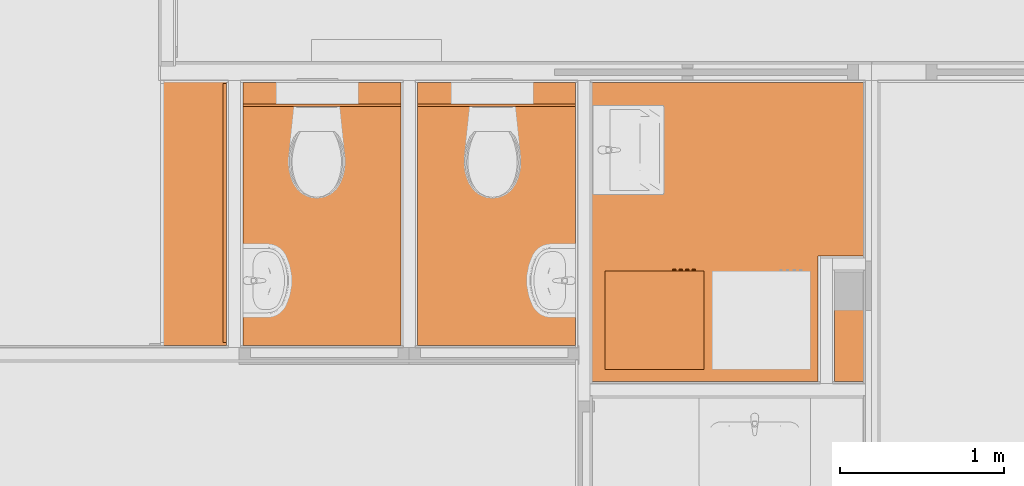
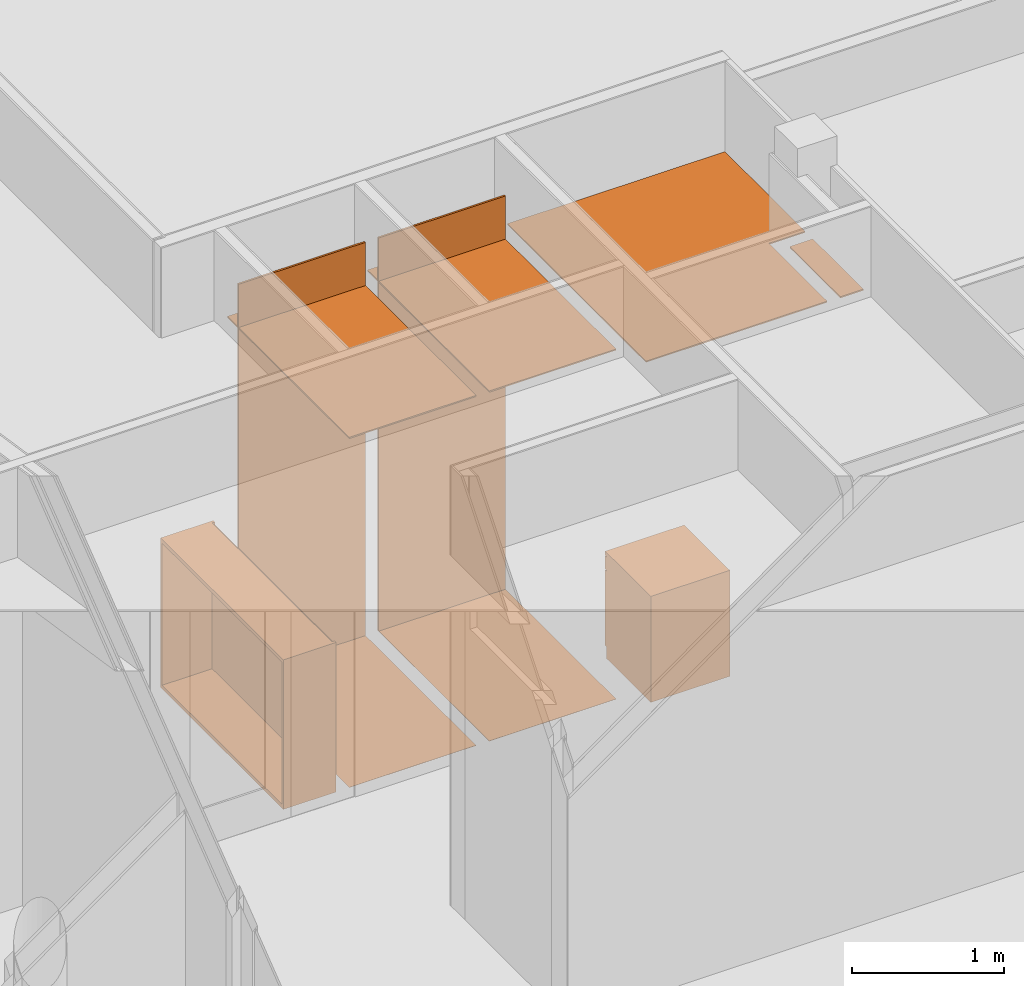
# One storey, part 153 of 167: 8 proxies.
"""IFC2X3 building model written with IfcOpenShell, lengths in millimetres."""

from ifc_helpers import new_model, entity, si_unit, converted_unit, derived_unit, money_unit, direction, frame, origin_with_axes, place, context, subcontext, project, spatial, open_shell, faceted_brep, surface_model, material, type_object, element, save


model = new_model("IFC2X3")

# Units and contexts
model_context = context("Model", 3, precision=0.01, world=origin_with_axes(), true_north=direction((0.0, 1.0)))
plan_context = context("Plan", 3, precision=0.01, world=origin_with_axes(), true_north=direction((0.0, 1.0)))
body_context = subcontext(model_context, "Body", "Model", "MODEL_VIEW")
ifc_project = project(units=[si_unit("LENGTHUNIT", "METRE", prefix="MILLI"), si_unit("AREAUNIT", "SQUARE_METRE"), si_unit("VOLUMEUNIT", "CUBIC_METRE"), converted_unit("PLANEANGLEUNIT", "DEGREE", entity("IfcPlaneAngleMeasure", 0.0174532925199), si_unit("PLANEANGLEUNIT", "RADIAN"), dimensions=[0, 0, 0, 0, 0, 0, 0]), si_unit("SOLIDANGLEUNIT", "STERADIAN"), money_unit("EUR"), converted_unit("TIMEUNIT", "Year", entity("IfcTimeMeasure", 31556926.0), si_unit("TIMEUNIT", "SECOND"), dimensions=[0, 0, 1, 0, 0, 0, 0]), si_unit("MASSUNIT", "GRAM", prefix="KILO"), si_unit("THERMODYNAMICTEMPERATUREUNIT", "DEGREE_CELSIUS"), si_unit("LUMINOUSINTENSITYUNIT", "LUMEN"), si_unit("ENERGYUNIT", "JOULE", prefix="MEGA"), derived_unit("THERMALCONDUCTANCEUNIT", [(si_unit("POWERUNIT", "WATT"), 1), (si_unit("LENGTHUNIT", "METRE"), -1), (si_unit("THERMODYNAMICTEMPERATUREUNIT", "KELVIN"), -1)]), derived_unit("SPECIFICHEATCAPACITYUNIT", [(si_unit("ENERGYUNIT", "JOULE"), 1), (si_unit("MASSUNIT", "GRAM", prefix="KILO"), -1), (si_unit("THERMODYNAMICTEMPERATUREUNIT", "KELVIN"), -1)]), derived_unit("MASSDENSITYUNIT", [(si_unit("MASSUNIT", "GRAM", prefix="KILO"), 1), (si_unit("VOLUMEUNIT", "CUBIC_METRE"), -1)])], contexts=[model_context, plan_context])

# Site, building, storey
site_placement = place(None, origin_with_axes())
site = spatial("IfcSite", under=ifc_project, at=site_placement, Name="Site", CompositionType="ELEMENT")
building_placement = place(site_placement, origin_with_axes())
building = spatial("IfcBuilding", under=site, at=building_placement, Name="Naam gebouw", CompositionType="ELEMENT")
storey_placement = place(building_placement, origin_with_axes())
storey = spatial("IfcBuildingStorey", under=building, at=storey_placement, Name="Begane grond", CompositionType="ELEMENT", Elevation=0.0)

# Proxies
ifc_material_1 = material(Name="ALG - BINNENAFWERKING")
building_element_proxy_type_1 = type_object("IfcBuildingElementProxyType", Name="ALG - BINNENAFWERKING 10", PredefinedType="NOTDEFINED")
proxy_1_placement = place(storey_placement, frame((24975.0000167, 35636.3531424, 2800.0), z_axis=(0.0, 0.0, 1.0), x_axis=(1.0, 0.0, 0.0)))
element("IfcBuildingElementProxy", 1, at=proxy_1_placement, inside=storey, type_object=building_element_proxy_type_1, material=ifc_material_1, Name="23__Vloer-x", context=body_context, shape_type="Brep", body=[
    faceted_brep([(962.499996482, 0.0, 0.0), (962.499996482, 1453.64636594, 0.0), (962.499996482, 1453.64636594, 10.0), (962.499996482, 0.0, 10.0), (0.0, 0.0, 0.0), (0.0, 1453.64636594, 0.0), (0.0, 1453.64636594, 10.0), (0.0, 0.0, 10.0)], [[[0, 1, 2, 3]], [[4, 5, 1, 0]], [[5, 6, 2, 1]], [[3, 2, 6, 7]], [[4, 0, 3, 7]], [[7, 6, 5, 4]]]),
    faceted_brep([(2024.99999648, 0.0, 0.0), (2024.99999648, 1453.64636594, 0.0), (2024.99999648, 1453.64636594, 10.0), (2024.99999648, 0.0, 10.0), (1062.49999648, 0.0, 0.0), (1062.49999648, 1453.64636594, 0.0), (1062.49999648, 1453.64636594, 10.0), (1062.49999648, 0.0, 10.0)], [[[0, 1, 2, 3]], [[4, 5, 1, 0]], [[5, 6, 2, 1]], [[3, 2, 6, 7]], [[3, 7, 4, 0]], [[7, 6, 5, 4]]]),
    faceted_brep([(0.0, 1601.14685758, 10.0), (0.0, 1468.64636594, 10.0), (962.499996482, 1468.64636594, 10.0), (962.499996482, 1601.14685758, 10.0), (0.0, 1601.14685758, 0.0), (0.0, 1468.64636594, 0.0), (962.499996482, 1468.64636594, 0.0), (962.499996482, 1601.14685758, 0.0)], [[[0, 1, 2, 3]], [[4, 5, 1, 0]], [[5, 6, 2, 1]], [[3, 2, 6, 7]], [[0, 3, 7, 4]], [[7, 6, 5, 4]]]),
    faceted_brep([(1062.49999648, 1601.14685758, 10.0), (1062.49999648, 1468.64636594, 10.0), (2024.99999648, 1468.64636594, 10.0), (2024.99999648, 1601.14685758, 10.0), (1062.49999648, 1601.14685758, 0.0), (1062.49999648, 1468.64636594, 0.0), (2024.99999648, 1468.64636594, 0.0), (2024.99999648, 1601.14685758, 0.0)], [[[0, 1, 2, 3]], [[4, 5, 1, 0]], [[5, 6, 2, 1]], [[3, 2, 6, 7]], [[7, 4, 0, 3]], [[7, 6, 5, 4]]]),
])
proxy_2_placement = place(storey_placement, frame((27100.0000132, 35417.4000002, 2800.0), z_axis=(0.0, 0.0, 1.0), x_axis=(1.0, 0.0, 0.0)))
element("IfcBuildingElementProxy", 2, at=proxy_2_placement, inside=storey, type_object=building_element_proxy_type_1, material=ifc_material_1, Name="23__Vloer-x", context=body_context, shape_type="Brep", body=[
    faceted_brep([(1649.99998678, 0.0, 0.0), (1649.99998678, 665.09999984, 0.0), (1649.99998678, 665.09999984, 10.0), (1649.99998678, 0.0, 10.0), (1474.99998678, 0.0, 0.0), (1474.99998678, 665.09999984, 0.0), (1474.99998678, 665.09999984, 10.0), (1474.99998678, 0.0, 10.0)], [[[0, 1, 2, 3]], [[4, 5, 1, 0]], [[5, 6, 2, 1]], [[3, 2, 6, 7]], [[3, 7, 4, 0]], [[7, 6, 5, 4]]]),
    faceted_brep([(1374.99998678, 765.09999984, 10.0), (1387.49998678, 765.09999984, 10.0), (1649.99998678, 765.09999984, 10.0), (1649.99998678, 1820.09999984, 10.0), (0.0, 1820.09999984, 10.0), (0.0, 0.0, 10.0), (1374.99998678, 0.0, 10.0), (1374.99998678, 765.09999984, 0.0), (1387.49998678, 765.09999984, 0.0), (1649.99998678, 765.09999984, 0.0), (1649.99998678, 1820.09999984, 0.0), (0.0, 1820.09999984, 0.0), (0.0, 0.0, 0.0), (1374.99998678, 0.0, 0.0)], [[[0, 1, 2, 3, 4, 5, 6]], [[7, 8, 1, 0]], [[8, 9, 2, 1]], [[3, 2, 9, 10]], [[11, 4, 3, 10]], [[5, 4, 11, 12]], [[12, 13, 6, 5]], [[7, 0, 6, 13]], [[10, 9, 8, 7, 13, 12, 11]]]),
])
ifc_material_2 = material(Name="_TenW_43_Flexx F15")
building_element_proxy_type_2 = type_object("IfcBuildingElementProxyType", Name="_TenW_43_Flexx F15 2", PredefinedType="NOTDEFINED")
proxy_3_placement = place(storey_placement, frame((24974.9999644, 37089.9995131, 0.0), z_axis=(0.0, 0.0, 1.0), x_axis=(1.0, 0.0, 0.0)))
element("IfcBuildingElementProxy", 3, at=proxy_3_placement, inside=storey, type_object=building_element_proxy_type_2, material=ifc_material_2, Name="23__Vloer-x", context=body_context, shape_type="Brep", body=[
    faceted_brep([(0.0, 0.0, 2.0), (0.0, 0.0, 0.0), (0.0, -1453.64631953, 0.0), (0.0, -1453.64631953, 2.0), (962.500050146, 0.0, 2.0), (962.500050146, 0.0, 0.0), (962.500050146, -1453.64634971, 0.0), (962.500050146, -1453.64634971, 2.0)], [[[0, 1, 2, 3]], [[4, 5, 1, 0]], [[2, 1, 5, 6]], [[3, 2, 6, 7]], [[4, 0, 3, 7]], [[7, 6, 5, 4]]]),
])
proxy_4_placement = place(storey_placement, frame((26037.500021, 37089.9995131, 0.0), z_axis=(0.0, 0.0, 1.0), x_axis=(1.0, 0.0, 0.0)))
element("IfcBuildingElementProxy", 4, at=proxy_4_placement, inside=storey, type_object=building_element_proxy_type_2, material=ifc_material_2, Name="23__Vloer-x", context=body_context, shape_type="Brep", body=[
    faceted_brep([(0.0, 0.0, 2.0), (0.0, 0.0, 0.0), (0.0, -1453.64634971, 0.0), (0.0, -1453.64634971, 2.0), (962.499959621, 0.0, 2.0), (962.499959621, 0.0, 0.0), (962.499959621, -1453.64631953, 0.0), (962.499959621, -1453.64631953, 2.0)], [[[0, 1, 2, 3]], [[4, 5, 1, 0]], [[2, 1, 5, 6]], [[3, 2, 6, 7]], [[4, 0, 3, 7]], [[7, 6, 5, 4]]]),
])
building_element_proxy_type_3 = type_object("IfcBuildingElementProxyType", Name="Boekenplank 01 24", PredefinedType="NOTDEFINED")
proxy_5_placement = place(storey_placement, frame((24475.0000525, 35636.3531404, 0.0), z_axis=(0.0, 0.0, 1.0), x_axis=(0.0, -1.0, 0.0)))
element("IfcBuildingElementProxy", 5, at=proxy_5_placement, inside=storey, type_object=building_element_proxy_type_3, Name="__Object-x", context=body_context, shape_type="Brep", body=[
    faceted_brep([(-1593.6468596, 399.99996122, 20.0), (-1593.6468596, 379.99996122, 20.0), (-1593.6468596, 379.99996122, 1180.0), (-1593.6468596, 399.99996122, 1180.0), (-20.0, 399.99996122, 20.0), (-20.0, 379.99996122, 20.0), (-20.0, 379.99996122, 1180.0), (-20.0, 399.99996122, 1180.0)], [[[0, 1, 2, 3]], [[0, 4, 5, 1]], [[1, 5, 6, 2]], [[3, 2, 6, 7]], [[4, 0, 3, 7]], [[5, 4, 7, 6]]]),
    faceted_brep([(-1593.6468596, 379.99996122, 0.0), (-1593.6468596, 0.0, 0.0), (-1593.6468596, 0.0, 30.0), (-1593.6468596, 379.99996122, 30.0), (-20.0, 379.99996122, 0.0), (-20.0, 0.0, 0.0), (-20.0, 0.0, 30.0), (-20.0, 379.99996122, 30.0)], [[[0, 1, 2, 3]], [[0, 4, 5, 1]], [[1, 5, 6, 2]], [[3, 2, 6, 7]], [[4, 0, 3, 7]], [[5, 4, 7, 6]]]),
    faceted_brep([(-1593.6468596, 379.99996122, 1170.0), (-1593.6468596, 0.0, 1170.0), (-1593.6468596, 0.0, 1200.0), (-1593.6468596, 379.99996122, 1200.0), (-20.0, 379.99996122, 1170.0), (-20.0, 0.0, 1170.0), (-20.0, 0.0, 1200.0), (-20.0, 379.99996122, 1200.0)], [[[0, 1, 2, 3]], [[0, 4, 5, 1]], [[1, 5, 6, 2]], [[3, 2, 6, 7]], [[4, 0, 3, 7]], [[5, 4, 7, 6]]]),
    faceted_brep([(-20.0, 0.0, 0.0), (0.0, 0.0, 0.0), (0.0, 0.0, 1200.0), (-20.0, 0.0, 1200.0), (-20.0, 399.99996122, 0.0), (0.0, 399.99996122, 0.0), (0.0, 399.99996122, 1200.0), (-20.0, 399.99996122, 1200.0)], [[[0, 1, 2, 3]], [[0, 4, 5, 1]], [[1, 5, 6, 2]], [[3, 2, 6, 7]], [[4, 0, 3, 7]], [[5, 4, 7, 6]]]),
    faceted_brep([(-1593.6468596, 399.99996122, 0.0), (-1613.6468596, 399.99996122, 0.0), (-1613.6468596, 399.99996122, 1200.0), (-1593.6468596, 399.99996122, 1200.0), (-1593.6468596, 0.0, 0.0), (-1613.6468596, 0.0, 0.0), (-1613.6468596, 0.0, 1200.0), (-1593.6468596, 0.0, 1200.0)], [[[0, 1, 2, 3]], [[0, 4, 5, 1]], [[1, 5, 6, 2]], [[3, 2, 6, 7]], [[4, 0, 3, 7]], [[5, 4, 7, 6]]]),
])
ifc_material_3 = material(Name="_TenW_22_Gipsplaat watervast")
building_element_proxy_type_4 = type_object("IfcBuildingElementProxyType", Name="_TenW_22_Gipsvezelplaat watervast 15", PredefinedType="NOTDEFINED")
proxy_6_placement = place(storey_placement, frame((25987.5000132, 37089.9995084, 0.0), z_axis=(0.0, 0.0, 1.0), x_axis=(-1.0, 0.0, 0.0)))
element("IfcBuildingElementProxy", 6, at=proxy_6_placement, inside=storey, type_object=building_element_proxy_type_4, material=ifc_material_3, Name="22__Wand-x", context=body_context, shape_type="Brep", body=[
    faceted_brep([(1012.49999648, 0.0, 3155.88619717), (50.0, 0.0, 3155.88619717), (50.0, -15.0, 3155.88619717), (1012.49999648, -15.0, 3155.88619717), (1012.49999648, 0.0, 0.0), (50.0, 0.0, 0.0), (50.0, -15.0, 0.0), (1012.49999648, -15.0, 0.0)], [[[0, 1, 2, 3]], [[4, 5, 1, 0]], [[5, 6, 2, 1]], [[3, 2, 6, 7]], [[0, 3, 7, 4]], [[7, 6, 5, 4]]]),
])
proxy_7_placement = place(storey_placement, frame((27050.0000097, 37089.9995084, 0.0), z_axis=(0.0, 0.0, 1.0), x_axis=(-1.0, 0.0, 0.0)))
element("IfcBuildingElementProxy", 7, at=proxy_7_placement, inside=storey, type_object=building_element_proxy_type_4, material=ifc_material_3, Name="22__Wand-x", context=body_context, shape_type="Brep", body=[
    faceted_brep([(1012.49999648, 0.0, 0.0), (1012.49999648, -15.0, 0.0), (49.9999964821, -15.0, 0.0), (49.9999964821, 0.0, 0.0), (1012.49999648, 0.0, 3155.88619717), (1012.49999648, -15.0, 3155.88619717), (49.9999964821, -15.0, 3155.88619717), (49.9999964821, 0.0, 3155.88619717)], [[[0, 1, 2, 3]], [[1, 0, 4, 5]], [[1, 5, 6, 2]], [[7, 3, 2, 6]], [[4, 0, 3, 7]], [[5, 4, 7, 6]]]),
])
building_element_proxy_type_5 = type_object("IfcBuildingElementProxyType", Name="Wasmachine 24", PredefinedType="NOTDEFINED")
proxy_8_placement = place(storey_placement, frame((27478.7955453, 35490.9955132, 0.0), z_axis=(0.0, 0.0, 1.0), x_axis=(-1.0, 0.0, 0.0)))
element("IfcBuildingElementProxy", 8, at=proxy_8_placement, inside=storey, type_object=building_element_proxy_type_5, Name="__object-x", context=body_context, shape_type="SurfaceModel", body=[
    faceted_brep([(-300.0, -580.0, 94.4444444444), (300.0, -580.0, 94.4444444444), (300.0, -600.0, 94.4444444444), (-300.0, -600.0, 94.4444444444), (-300.0, -580.0, 698.888888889), (300.0, -580.0, 698.888888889), (170.0, -580.0, 396.666666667), (147.224318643, -580.0, 481.666666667), (85.0, -580.0, 543.89098531), (0.0, -580.0, 566.666666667), (-85.0, -580.0, 543.89098531), (-147.224318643, -580.0, 481.666666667), (-170.0, -580.0, 396.666666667), (-147.224318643, -580.0, 311.666666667), (-85.0, -580.0, 249.442348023), (0.0, -580.0, 226.666666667), (85.0, -580.0, 249.442348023), (147.224318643, -580.0, 311.666666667), (300.0, -600.0, 698.888888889), (-300.0, -600.0, 698.888888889), (170.0, -600.0, 396.666666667), (147.224318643, -600.0, 311.666666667), (85.0, -600.0, 249.442348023), (0.0, -600.0, 226.666666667), (-85.0, -600.0, 249.442348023), (-147.224318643, -600.0, 311.666666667), (-170.0, -600.0, 396.666666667), (-147.224318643, -600.0, 481.666666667), (-85.0, -600.0, 543.89098531), (0.0, -600.0, 566.666666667), (85.0, -600.0, 543.89098531), (147.224318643, -600.0, 481.666666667)], [[[0, 1, 2, 3]], [[0, 4, 5, 1], [6, 7, 8, 9, 10, 11, 12, 13, 14, 15, 16, 17]], [[1, 5, 18, 2]], [[3, 2, 18, 19], [20, 21, 22, 23, 24, 25, 26, 27, 28, 29, 30, 31]], [[4, 0, 3, 19]], [[5, 4, 19, 18]], [[7, 6, 20, 31]], [[8, 7, 31, 30]], [[9, 8, 30, 29]], [[10, 9, 29, 28]], [[11, 10, 28, 27]], [[12, 11, 27, 26]], [[13, 12, 26, 25]], [[14, 13, 25, 24]], [[15, 14, 24, 23]], [[16, 15, 23, 22]], [[17, 16, 22, 21]], [[6, 17, 21, 20]]]),
    faceted_brep([(170.0, -560.0, 396.666666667), (147.224318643, -560.0, 481.666666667), (147.224318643, -580.0, 481.666666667), (170.0, -580.0, 396.666666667), (147.224318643, -560.0, 311.666666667), (85.0, -560.0, 249.442348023), (0.0, -560.0, 226.666666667), (-85.0, -560.0, 249.442348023), (-147.224318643, -560.0, 311.666666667), (-170.0, -560.0, 396.666666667), (-147.224318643, -560.0, 481.666666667), (-85.0, -560.0, 543.89098531), (0.0, -560.0, 566.666666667), (85.0, -560.0, 543.89098531), (136.0, -560.0, 396.666666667), (117.779454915, -560.0, 464.666666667), (68.0, -560.0, 514.446121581), (0.0, -560.0, 532.666666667), (-68.0, -560.0, 514.446121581), (-117.779454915, -560.0, 464.666666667), (-136.0, -560.0, 396.666666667), (-117.779454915, -560.0, 328.666666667), (-68.0, -560.0, 278.887211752), (0.0, -560.0, 260.666666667), (68.0, -560.0, 278.887211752), (117.779454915, -560.0, 328.666666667), (85.0, -580.0, 543.89098531), (0.0, -580.0, 566.666666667), (-85.0, -580.0, 543.89098531), (-147.224318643, -580.0, 481.666666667), (-170.0, -580.0, 396.666666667), (-147.224318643, -580.0, 311.666666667), (-85.0, -580.0, 249.442348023), (0.0, -580.0, 226.666666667), (85.0, -580.0, 249.442348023), (147.224318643, -580.0, 311.666666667), (136.0, -580.0, 396.666666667), (117.779454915, -580.0, 328.666666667), (68.0, -580.0, 278.887211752), (0.0, -580.0, 260.666666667), (-68.0, -580.0, 278.887211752), (-117.779454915, -580.0, 328.666666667), (-136.0, -580.0, 396.666666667), (-117.779454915, -580.0, 464.666666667), (-68.0, -580.0, 514.446121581), (0.0, -580.0, 532.666666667), (68.0, -580.0, 514.446121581), (117.779454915, -580.0, 464.666666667)], [[[0, 1, 2, 3]], [[0, 4, 5, 6, 7, 8, 9, 10, 11, 12, 13, 1], [14, 15, 16, 17, 18, 19, 20, 21, 22, 23, 24, 25]], [[1, 13, 26, 2]], [[3, 2, 26, 27, 28, 29, 30, 31, 32, 33, 34, 35], [36, 37, 38, 39, 40, 41, 42, 43, 44, 45, 46, 47]], [[4, 0, 3, 35]], [[5, 4, 35, 34]], [[6, 5, 34, 33]], [[7, 6, 33, 32]], [[8, 7, 32, 31]], [[9, 8, 31, 30]], [[10, 9, 30, 29]], [[11, 10, 29, 28]], [[12, 11, 28, 27]], [[13, 12, 27, 26]], [[15, 14, 36, 47]], [[16, 15, 47, 46]], [[17, 16, 46, 45]], [[18, 17, 45, 44]], [[19, 18, 44, 43]], [[20, 19, 43, 42]], [[21, 20, 42, 41]], [[22, 21, 41, 40]], [[23, 22, 40, 39]], [[24, 23, 39, 38]], [[25, 24, 38, 37]], [[14, 25, 37, 36]]]),
    surface_model("IfcShellBasedSurfaceModel", [(-68.0, -560.0, 514.446121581), (0.0, -560.0, 532.666666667), (0.0, -460.0, 498.666666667), (-51.0, -460.0, 485.001257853), (68.0, -560.0, 514.446121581), (51.0, -460.0, 485.001257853), (88.334591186, -460.0, 447.666666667), (102.0, -460.0, 396.666666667), (88.334591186, -460.0, 345.666666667), (51.0, -460.0, 308.332075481), (0.0, -460.0, 294.666666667), (-51.0, -460.0, 308.332075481), (-88.334591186, -460.0, 345.666666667), (-102.0, -460.0, 396.666666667), (-88.334591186, -460.0, 447.666666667), (-117.779454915, -560.0, 464.666666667), (117.779454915, -560.0, 464.666666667), (136.0, -560.0, 396.666666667), (117.779454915, -560.0, 328.666666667), (68.0, -560.0, 278.887211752), (0.0, -560.0, 260.666666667), (-68.0, -560.0, 278.887211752), (-117.779454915, -560.0, 328.666666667), (-136.0, -560.0, 396.666666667)], [open_shell([[[0, 1, 2, 3]], [[1, 4, 5, 2]], [[2, 5, 6, 7, 8, 9, 10, 11, 12, 13, 14, 3]], [[15, 0, 3, 14]], [[4, 16, 6, 5]], [[16, 17, 7, 6]], [[17, 18, 8, 7]], [[18, 19, 9, 8]], [[19, 20, 10, 9]], [[20, 21, 11, 10]], [[21, 22, 12, 11]], [[22, 23, 13, 12]], [[23, 15, 14, 13]]])]),
    surface_model("IfcShellBasedSurfaceModel", [(-300.0, -580.0, 94.4444444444), (-300.0, -580.0, 821.666666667), (-300.0, 0.0, 821.666666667), (-300.0, 0.0, 94.4444444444)], [open_shell([[[0, 1, 2, 3]]])]),
    surface_model("IfcShellBasedSurfaceModel", [(300.0, -580.0, 94.4444444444), (300.0, -580.0, 821.666666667), (300.0, 0.0, 821.666666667), (300.0, 0.0, 94.4444444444)], [open_shell([[[0, 1, 2, 3]]])]),
    surface_model("IfcShellBasedSurfaceModel", [(-300.0, 0.0, 94.4444444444), (-300.0, 0.0, 821.666666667), (300.0, 0.0, 821.666666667), (300.0, 0.0, 94.4444444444)], [open_shell([[[0, 1, 2, 3]]])]),
    faceted_brep([(-300.0, -580.0, 0.0), (300.0, -580.0, 0.0), (300.0, -580.0, 94.4444444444), (-300.0, -580.0, 94.4444444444), (-300.0, 0.0, 0.0), (300.0, 0.0, 0.0), (300.0, 0.0, 94.4444444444), (-300.0, 0.0, 94.4444444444)], [[[0, 1, 2, 3]], [[0, 4, 5, 1]], [[1, 5, 6, 2]], [[3, 2, 6, 7]], [[4, 0, 3, 7]], [[5, 4, 7, 6]]]),
    faceted_brep([(-300.0, -580.0, 708.333333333), (300.0, -580.0, 708.333333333), (300.0, -600.0, 708.333333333), (-300.0, -600.0, 708.333333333), (-300.0, -580.0, 812.222222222), (300.0, -580.0, 812.222222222), (300.0, -600.0, 812.222222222), (-300.0, -600.0, 812.222222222)], [[[0, 1, 2, 3]], [[0, 4, 5, 1]], [[1, 5, 6, 2]], [[3, 2, 6, 7]], [[4, 0, 3, 7]], [[5, 4, 7, 6]]]),
    surface_model("IfcShellBasedSurfaceModel", [(-300.0, -580.0, 698.888888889), (-300.0, -580.0, 821.666666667), (300.0, -580.0, 821.666666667), (300.0, -580.0, 698.888888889)], [open_shell([[[0, 1, 2, 3]]])]),
    faceted_brep([(-300.0, -600.0, 821.666666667), (300.0, -600.0, 821.666666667), (300.0, -600.0, 850.0), (-300.0, -600.0, 850.0), (-300.0, 0.0, 821.666666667), (300.0, 0.0, 821.666666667), (300.0, 0.0, 850.0), (-300.0, 0.0, 850.0)], [[[0, 1, 2, 3]], [[0, 4, 5, 1]], [[1, 5, 6, 2]], [[3, 2, 6, 7]], [[4, 0, 3, 7]], [[5, 4, 7, 6]]]),
    faceted_brep([(-231.339745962, -600.0, 760.0), (-235.0, -600.0, 756.339745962), (-240.0, -600.0, 755.0), (-245.0, -600.0, 756.339745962), (-248.660254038, -600.0, 760.0), (-250.0, -600.0, 765.0), (-248.660254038, -600.0, 770.0), (-245.0, -600.0, 773.660254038), (-240.0, -600.0, 775.0), (-235.0, -600.0, 773.660254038), (-231.339745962, -600.0, 770.0), (-230.0, -600.0, 765.0), (-231.339745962, -610.0, 760.0), (-235.0, -610.0, 756.339745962), (-240.0, -610.0, 755.0), (-245.0, -610.0, 756.339745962), (-248.660254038, -610.0, 760.0), (-250.0, -610.0, 765.0), (-248.660254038, -610.0, 770.0), (-245.0, -610.0, 773.660254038), (-240.0, -610.0, 775.0), (-235.0, -610.0, 773.660254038), (-231.339745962, -610.0, 770.0), (-230.0, -610.0, 765.0)], [[[0, 1, 2, 3, 4, 5, 6, 7, 8, 9, 10, 11]], [[1, 0, 12, 13]], [[2, 1, 13, 14]], [[3, 2, 14, 15]], [[4, 3, 15, 16]], [[5, 4, 16, 17]], [[6, 5, 17, 18]], [[7, 6, 18, 19]], [[8, 7, 19, 20]], [[9, 8, 20, 21]], [[10, 9, 21, 22]], [[11, 10, 22, 23]], [[0, 11, 23, 12]], [[12, 23, 22, 21, 20, 19, 18, 17, 16, 15, 14, 13]]]),
    faceted_brep([(-191.339745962, -600.0, 760.0), (-195.0, -600.0, 756.339745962), (-200.0, -600.0, 755.0), (-205.0, -600.0, 756.339745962), (-208.660254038, -600.0, 760.0), (-210.0, -600.0, 765.0), (-208.660254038, -600.0, 770.0), (-205.0, -600.0, 773.660254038), (-200.0, -600.0, 775.0), (-195.0, -600.0, 773.660254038), (-191.339745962, -600.0, 770.0), (-190.0, -600.0, 765.0), (-191.339745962, -610.0, 760.0), (-195.0, -610.0, 756.339745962), (-200.0, -610.0, 755.0), (-205.0, -610.0, 756.339745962), (-208.660254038, -610.0, 760.0), (-210.0, -610.0, 765.0), (-208.660254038, -610.0, 770.0), (-205.0, -610.0, 773.660254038), (-200.0, -610.0, 775.0), (-195.0, -610.0, 773.660254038), (-191.339745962, -610.0, 770.0), (-190.0, -610.0, 765.0)], [[[0, 1, 2, 3, 4, 5, 6, 7, 8, 9, 10, 11]], [[1, 0, 12, 13]], [[2, 1, 13, 14]], [[3, 2, 14, 15]], [[4, 3, 15, 16]], [[5, 4, 16, 17]], [[6, 5, 17, 18]], [[7, 6, 18, 19]], [[8, 7, 19, 20]], [[9, 8, 20, 21]], [[10, 9, 21, 22]], [[11, 10, 22, 23]], [[0, 11, 23, 12]], [[12, 23, 22, 21, 20, 19, 18, 17, 16, 15, 14, 13]]]),
    faceted_brep([(-151.339745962, -600.0, 760.0), (-155.0, -600.0, 756.339745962), (-160.0, -600.0, 755.0), (-165.0, -600.0, 756.339745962), (-168.660254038, -600.0, 760.0), (-170.0, -600.0, 765.0), (-168.660254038, -600.0, 770.0), (-165.0, -600.0, 773.660254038), (-160.0, -600.0, 775.0), (-155.0, -600.0, 773.660254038), (-151.339745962, -600.0, 770.0), (-150.0, -600.0, 765.0), (-151.339745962, -610.0, 760.0), (-155.0, -610.0, 756.339745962), (-160.0, -610.0, 755.0), (-165.0, -610.0, 756.339745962), (-168.660254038, -610.0, 760.0), (-170.0, -610.0, 765.0), (-168.660254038, -610.0, 770.0), (-165.0, -610.0, 773.660254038), (-160.0, -610.0, 775.0), (-155.0, -610.0, 773.660254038), (-151.339745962, -610.0, 770.0), (-150.0, -610.0, 765.0)], [[[0, 1, 2, 3, 4, 5, 6, 7, 8, 9, 10, 11]], [[1, 0, 12, 13]], [[2, 1, 13, 14]], [[3, 2, 14, 15]], [[4, 3, 15, 16]], [[5, 4, 16, 17]], [[6, 5, 17, 18]], [[7, 6, 18, 19]], [[8, 7, 19, 20]], [[9, 8, 20, 21]], [[10, 9, 21, 22]], [[11, 10, 22, 23]], [[0, 11, 23, 12]], [[12, 23, 22, 21, 20, 19, 18, 17, 16, 15, 14, 13]]]),
    faceted_brep([(-111.339745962, -600.0, 760.0), (-115.0, -600.0, 756.339745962), (-120.0, -600.0, 755.0), (-125.0, -600.0, 756.339745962), (-128.660254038, -600.0, 760.0), (-130.0, -600.0, 765.0), (-128.660254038, -600.0, 770.0), (-125.0, -600.0, 773.660254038), (-120.0, -600.0, 775.0), (-115.0, -600.0, 773.660254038), (-111.339745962, -600.0, 770.0), (-110.0, -600.0, 765.0), (-111.339745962, -610.0, 760.0), (-115.0, -610.0, 756.339745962), (-120.0, -610.0, 755.0), (-125.0, -610.0, 756.339745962), (-128.660254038, -610.0, 760.0), (-130.0, -610.0, 765.0), (-128.660254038, -610.0, 770.0), (-125.0, -610.0, 773.660254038), (-120.0, -610.0, 775.0), (-115.0, -610.0, 773.660254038), (-111.339745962, -610.0, 770.0), (-110.0, -610.0, 765.0)], [[[0, 1, 2, 3, 4, 5, 6, 7, 8, 9, 10, 11]], [[1, 0, 12, 13]], [[2, 1, 13, 14]], [[3, 2, 14, 15]], [[4, 3, 15, 16]], [[5, 4, 16, 17]], [[6, 5, 17, 18]], [[7, 6, 18, 19]], [[8, 7, 19, 20]], [[9, 8, 20, 21]], [[10, 9, 21, 22]], [[11, 10, 22, 23]], [[0, 11, 23, 12]], [[12, 23, 22, 21, 20, 19, 18, 17, 16, 15, 14, 13]]]),
])

save(model, "model.ifc")
